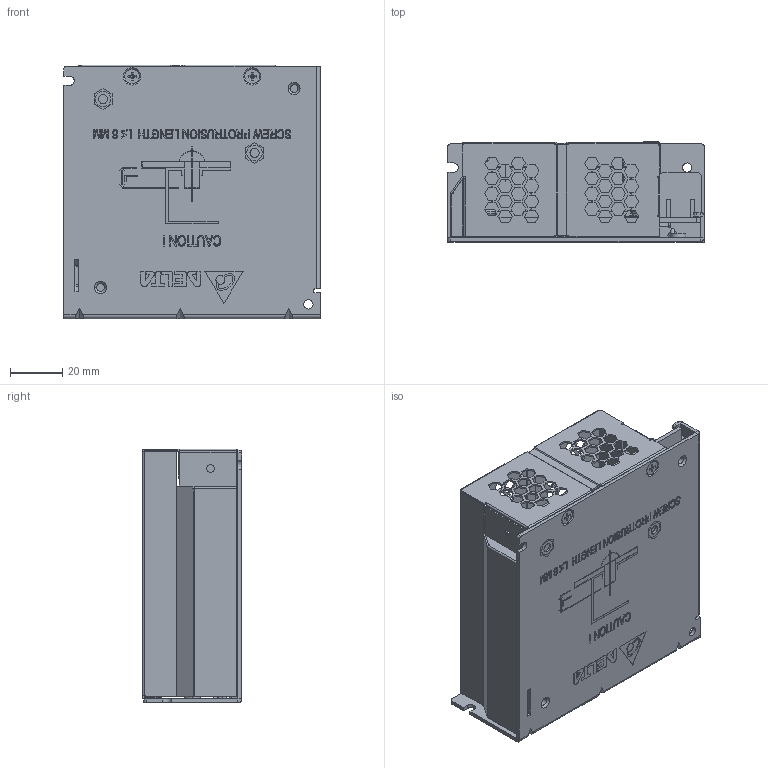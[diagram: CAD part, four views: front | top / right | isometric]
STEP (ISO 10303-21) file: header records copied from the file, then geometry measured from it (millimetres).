
FILE_DESCRIPTION((''),'2;1');
FILE_NAME('PMC-05V035W1AJ_ASM','2020-10-21T',('Kidsada.Kohk'),(''),'PRO/ENGINEER BY PARAMETRIC TECHNOLOGY CORPORATION, 2010180','PRO/ENGINEER BY PARAMETRIC TECHNOLOGY CORPORATION, 2010180','');
FILE_SCHEMA(('CONFIG_CONTROL_DESIGN','SHAPE_APPEARANCE_LAYERS_GROUPS'));
Products named in the file (17): 331609650101; 331609650101_A_STUD; 331609650101_ASM; 331605710101; 326203870304; 3268211200; 2958045701_PWB; EE_VR_A_1; EE_VR_A_LEG; EE_VR_ASM; 3352010600; EE_LED; 307049857W; ASSY_PWB_PMC-05V035W1AJ_ASM; 3103301000; 3100000400; PMC-05V035W1AJ_ASM
Assembly tree (23 placements, depth 4):
  PMC-05V035W1AJ_ASM
    331609650101_ASM
      331609650101
      331609650101_A_STUD  x2
    331605710101
    326203870304
    3268211200
    ASSY_PWB_PMC-05V035W1AJ_ASM
      2958045701_PWB
      EE_VR_ASM
        EE_VR_A_1
        EE_VR_A_LEG  x3
      3352010600
      EE_LED
      307049857W
    3103301000  x2
    3100000400  x4
Bounding box: 98 x 38.15 x 97.05 mm (x, y, z)
Volume: 52801.3 mm3; surface area: 87565.9 mm2
Topology: 20 solids, 20 shells, 4103 faces, 11032 edges, 6854 vertices
Faces by surface type: plane 3019, cylinder 469, extrusion 375, bspline 148, cone 74, torus 18
Entity records: 155233 total; most frequent: CARTESIAN_POINT 27033, ORIENTED_EDGE 20618, DIRECTION 17408, PRESENTATION_STYLE_ASSIGNMENT 10538, STYLED_ITEM 10371, EDGE_CURVE 10309, CURVE_STYLE 10273, VECTOR 8882
